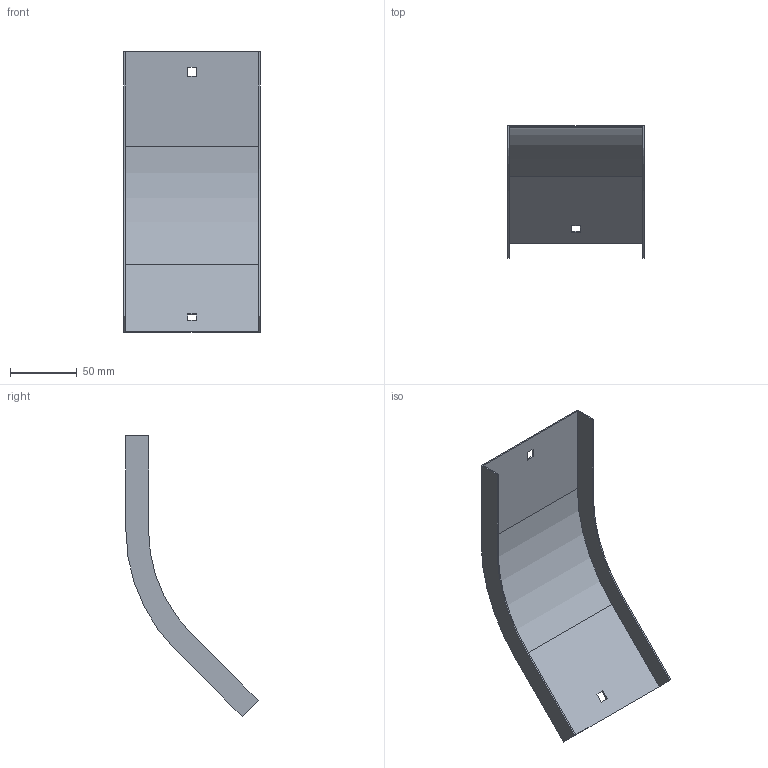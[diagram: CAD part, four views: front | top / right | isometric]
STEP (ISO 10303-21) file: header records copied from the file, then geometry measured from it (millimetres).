
FILE_DESCRIPTION (( 'STEP AP214' ), '1' );
FILE_NAME ('OD4_107.step', '2025-07-16T09:11:21', ( '' ), ( '' ), 'SwSTEP 2.0', 'SolidWorks 2023', '' );
FILE_SCHEMA (( 'AUTOMOTIVE_DESIGN' ));
Length unit declared in the file: millimetre
Products named in the file (1): OD4_107
Bounding box: 102 x 99.13 x 210.3 mm (x, y, z)
Volume: 31938.4 mm3; surface area: 64652.8 mm2
Topology: 1 solids, 1 shells, 26 faces, 72 edges, 48 vertices
Faces by surface type: plane 22, cylinder 4
Entity records: 855 total; most frequent: CARTESIAN_POINT 147, ORIENTED_EDGE 144, DIRECTION 134, EDGE_CURVE 72, LINE 64, VECTOR 64, VERTEX_POINT 48, AXIS2_PLACEMENT_3D 35
